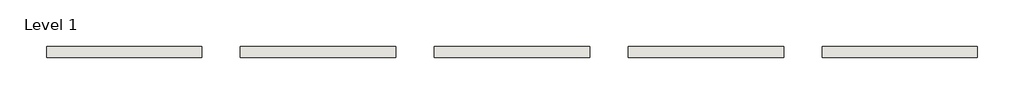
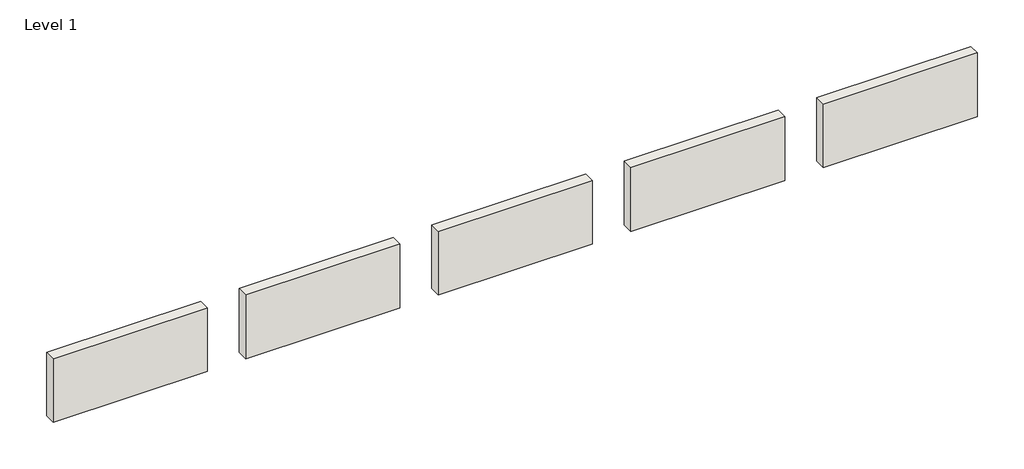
# One storey: 5 walls.
"""IFC4 building model written with IfcOpenShell, lengths in millimetres."""

import ifcopenshell
import ifcopenshell.guid

model = None  # the IFC model being written
_history = None  # IfcOwnerHistory: only IFC2X3 demands one
_inside = {}  # id of a spatial element -> (the spatial element, [elements in it])
_under = {}  # id of a project, library or spatial element -> (it, [spatial elements below it])
_declared = {}  # id of a project -> (the project, [libraries it declares])
_typed = {}  # id of a type object -> (the type object, [elements of that type])
_made_of = {}  # id of a material, layer set ... -> (it, [elements and type objects made of it])


def new_model(schema):
    """Start an empty IFC model of exactly this schema.

    Asked for "IFC4X3", IfcOpenShell would pick the latest addendum, in which some entities
    have other attributes; the version numbers below select the first issue.
    IFC2X3 requires an IfcOwnerHistory on every rooted entity: one is made here for all.
    """
    global model, _history
    if schema == "IFC4X3":
        model = ifcopenshell.file(schema_version=(4, 3, 0, 0))
    else:
        model = ifcopenshell.file(schema=schema)
    _inside.clear()
    _under.clear()
    _declared.clear()
    _typed.clear()
    _made_of.clear()
    _history = None
    if model.schema == "IFC2X3":
        org = make("IfcOrganization", Name="unknown")
        user = make(
            "IfcPersonAndOrganization",
            ThePerson=make("IfcPerson", FamilyName="unknown"),
            TheOrganization=org,
        )
        app = make(
            "IfcApplication",
            ApplicationDeveloper=org,
            Version="unknown",
            ApplicationFullName="unknown",
            ApplicationIdentifier="unknown",
        )
        _history = make(
            "IfcOwnerHistory",
            OwningUser=user,
            OwningApplication=app,
            ChangeAction="ADDED",
            CreationDate=0,
        )
    return model


def make(cls, **values):
    """One entity of the class cls with the attributes given. An attribute that is None is left unset."""
    return model.create_entity(
        cls, **{name: value for name, value in values.items() if value is not None}
    )


def rooted(cls, **values):
    """An entity with a GlobalId (a new one), such as an element, a storey or a relation."""
    return make(cls, GlobalId=ifcopenshell.guid.new(), OwnerHistory=_history, **values)


def si_unit(unit_type, name, prefix=None):
    """IfcSIUnit, for example si_unit("LENGTHUNIT", "METRE", prefix="MILLI")."""
    return make("IfcSIUnit", UnitType=unit_type, Prefix=prefix, Name=name)


def assignment(units):
    """IfcUnitAssignment: the units of a project."""
    return None if units is None else make("IfcUnitAssignment", Units=units)


def point(xyz):
    """IfcCartesianPoint."""
    return None if xyz is None else make("IfcCartesianPoint", Coordinates=xyz)


def direction(xyz):
    """IfcDirection."""
    return None if xyz is None else make("IfcDirection", DirectionRatios=xyz)


def frame(location, z_axis=None, x_axis=None):
    """IfcAxis2Placement3D, a coordinate frame: its origin and axes. An axis left out is left unset."""
    return make(
        "IfcAxis2Placement3D",
        Location=point(location),
        Axis=direction(z_axis),
        RefDirection=direction(x_axis),
    )


def origin():
    """The frame at (0, 0, 0) with its axes left unset."""
    return frame((0.0, 0.0, 0.0))


def origin_with_axes():
    """The frame at (0, 0, 0) with the z axis (0, 0, 1) and the x axis (1, 0, 0) written out."""
    return frame((0.0, 0.0, 0.0), z_axis=(0.0, 0.0, 1.0), x_axis=(1.0, 0.0, 0.0))


def place(relative_to, where):
    """IfcLocalPlacement: puts the frame where relative to a parent placement (None: the world)."""
    return make(
        "IfcLocalPlacement", PlacementRelTo=relative_to, RelativePlacement=where
    )


def context(
    kind, dimensions, precision=None, world=None, true_north=None, identifier=None
):
    """IfcGeometricRepresentationContext, for example the 3D "Model" context."""
    return make(
        "IfcGeometricRepresentationContext",
        ContextIdentifier=identifier,
        ContextType=kind,
        CoordinateSpaceDimension=dimensions,
        Precision=precision,
        WorldCoordinateSystem=world,
        TrueNorth=true_north,
    )


def project(units=None, contexts=None):
    """IfcProject with its units and contexts."""
    return rooted(
        "IfcProject",
        Name="project",
        RepresentationContexts=contexts,
        UnitsInContext=assignment(units),
    )


def spatial(cls, under=None, at=None, **own):
    """A site, building, storey or space (cls), placed at a placement, below another one or the project."""
    s = rooted(cls, ObjectPlacement=at, **own)
    if under is not None:
        _under.setdefault(under.id(), (under, []))[1].append(s)
    return s


def polyline(points):
    """IfcPolyline through the points."""
    return make("IfcPolyline", Points=[point(p) for p in points])


def outline(outer, holes=None, kind="AREA"):
    """IfcArbitraryClosedProfileDef: a profile drawn as a closed curve; with holes, ...WithVoids."""
    if holes is None:
        return make("IfcArbitraryClosedProfileDef", ProfileType=kind, OuterCurve=outer)
    return make(
        "IfcArbitraryProfileDefWithVoids",
        ProfileType=kind,
        OuterCurve=outer,
        InnerCurves=holes,
    )


def extrude(swept, where, along, depth):
    """IfcExtrudedAreaSolid: the profile swept, set in the frame where, extruded along a direction by depth."""
    return make(
        "IfcExtrudedAreaSolid",
        SweptArea=swept,
        Position=where,
        ExtrudedDirection=direction(along),
        Depth=depth,
    )


def shape(context_of_items, identifier, shape_type, items):
    """IfcShapeRepresentation: the items that make up one representation, for example the "Body"."""
    return make(
        "IfcShapeRepresentation",
        ContextOfItems=context_of_items,
        RepresentationIdentifier=identifier,
        RepresentationType=shape_type,
        Items=items,
    )


def made_of(thing, what):
    """Note that an element or type object is made of a material, layer set ...; save() writes the relation."""
    if what is not None:
        _made_of.setdefault(what.id(), (what, []))[1].append(thing)
    return thing


def element(
    cls,
    number,
    at=None,
    inside=None,
    cuts=None,
    type_object=None,
    material=None,
    context=None,
    identifier="Body",
    shape_type=None,
    held_by="IfcProductDefinitionShape",
    body=None,
    shapes=None,
    **own,
):
    """One element of the class cls, such as IfcWall. Its Tag is "e" and its number.

    at: its placement. inside: the storey or other place that contains it. cuts: it is an
    opening in that element (IfcRelVoidsElement). A single representation is given by context,
    identifier, shape_type and body (its items); several are given by shapes. held_by: the class
    of the entity that holds the representations. save() writes the other relations.
    """
    e = rooted(cls, Tag="e%d" % number, ObjectPlacement=at, **own)
    if body is not None:
        shapes = [shape(context, identifier, shape_type, body)]
    if shapes is not None:
        e.Representation = make(held_by, Representations=shapes)
    if inside is not None:
        _inside.setdefault(inside.id(), (inside, []))[1].append(e)
    if cuts is not None:
        rooted(
            "IfcRelVoidsElement", RelatingBuildingElement=cuts, RelatedOpeningElement=e
        )
    if type_object is not None:
        _typed.setdefault(type_object.id(), (type_object, []))[1].append(e)
    return made_of(e, material)


def aggregate(whole, parts):
    """IfcRelAggregates: a whole, such as a stair, and the parts it consists of."""
    return rooted("IfcRelAggregates", RelatingObject=whole, RelatedObjects=parts)


def save(model, path):
    """Write the relations noted so far, then the file.

    IfcRelAggregates (storeys below a building ...), IfcRelContainedInSpatialStructure (elements
    in a storey), IfcRelDefinesByType, IfcRelAssociatesMaterial and IfcRelDeclares: one each for
    every whole, place, type object, material and project.
    """
    for whole, parts in _under.values():
        aggregate(whole, parts)
    for where, things in _inside.values():
        rooted(
            "IfcRelContainedInSpatialStructure",
            RelatedElements=things,
            RelatingStructure=where,
        )
    for kind, things in _typed.values():
        rooted("IfcRelDefinesByType", RelatedObjects=things, RelatingType=kind)
    for what, things in _made_of.values():
        rooted("IfcRelAssociatesMaterial", RelatedObjects=things, RelatingMaterial=what)
    for by, libraries in _declared.values():
        rooted("IfcRelDeclares", RelatingContext=by, RelatedDefinitions=libraries)
    model.write(path)


model = new_model("IFC4")

# Units and contexts
model_context = context("Model", 3, world=origin())
ifc_project = project(units=[si_unit("LENGTHUNIT", "METRE", prefix="MILLI")], contexts=[model_context])

# Site, building, storey
site = spatial("IfcSite", under=ifc_project)
building = spatial("IfcBuilding", under=site)
storey = spatial("IfcBuildingStorey", under=building, Name="Level 1", Elevation=0.0)

# Walls
placement = place(None, origin())
element("IfcWall", 1, ObjectType="Brick - Full Range - Smooth - General Shale Brick", at=placement, inside=storey, context=model_context, shape_type="SweptSolid", body=[
    extrude(outline(polyline([(19839.9878812, -15988.6786188), (18620.7878812, -15988.6786188), (18620.7878812, -15899.7786188), (19839.9878812, -15899.7786188), (19839.9878812, -15988.6786188)])), origin_with_axes(), (0.0, 0.0, 1.0), 533.4),
])
element("IfcWall", 2, ObjectType="Brick - Full Range - Wirecut 6024 - General Shale Brick", at=placement, inside=storey, context=model_context, shape_type="SweptSolid", body=[
    extrude(outline(polyline([(21363.9878812, -15988.6786188), (20144.7878812, -15988.6786188), (20144.7878812, -15899.7786188), (21363.9878812, -15899.7786188), (21363.9878812, -15988.6786188)])), origin_with_axes(), (0.0, 0.0, 1.0), 533.4),
])
element("IfcWall", 3, ObjectType="Brick - Midnight Mist - General Shale Brick", at=placement, inside=storey, context=model_context, shape_type="SweptSolid", body=[
    extrude(outline(polyline([(22887.9878812, -15988.6786188), (21668.7878812, -15988.6786188), (21668.7878812, -15899.7786188), (22887.9878812, -15899.7786188), (22887.9878812, -15988.6786188)])), origin_with_axes(), (0.0, 0.0, 1.0), 533.4),
])
element("IfcWall", 4, ObjectType="Brick - Red Range - Smooth - General Shale Brick", at=placement, inside=storey, context=model_context, shape_type="SweptSolid", body=[
    extrude(outline(polyline([(24411.9878812, -15988.6786188), (23192.7878812, -15988.6786188), (23192.7878812, -15899.7786188), (24411.9878812, -15899.7786188), (24411.9878812, -15988.6786188)])), origin_with_axes(), (0.0, 0.0, 1.0), 533.4),
])
element("IfcWall", 5, ObjectType="Brick - Red Range - Wirecut 6024 - General Shale Brick", at=placement, inside=storey, context=model_context, shape_type="SweptSolid", body=[
    extrude(outline(polyline([(25935.9878812, -15988.6786188), (24716.7878812, -15988.6786188), (24716.7878812, -15899.7786188), (25935.9878812, -15899.7786188), (25935.9878812, -15988.6786188)])), origin_with_axes(), (0.0, 0.0, 1.0), 533.4),
])

save(model, "model.ifc")
